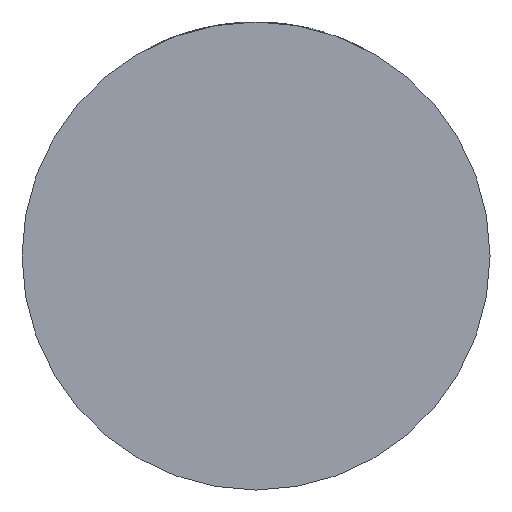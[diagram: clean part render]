
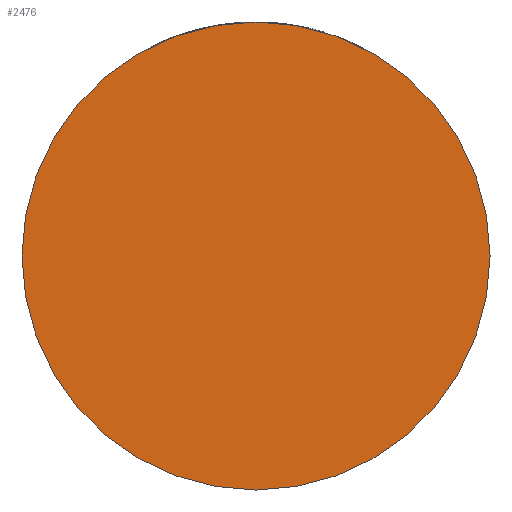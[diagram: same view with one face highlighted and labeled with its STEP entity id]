
A CAD part, front view. The second image highlights one B-rep face of the part: STEP entity #2476.
In plain terms, the highlighted planar face has unit normal (0, -1, 0).
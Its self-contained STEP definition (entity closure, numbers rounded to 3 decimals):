
#68 = EDGE_LOOP ( 'NONE', ( #676, #3837 ) ) ;
#435 = CARTESIAN_POINT ( 'NONE',  ( -74., -60., 0. ) ) ;
#518 = DIRECTION ( 'NONE',  ( 0., -1., 0. ) ) ;
#676 = ORIENTED_EDGE ( 'NONE', *, *, #859, .T. ) ;
#764 = CARTESIAN_POINT ( 'NONE',  ( 0., -60., 0. ) ) ;
#789 = CARTESIAN_POINT ( 'NONE',  ( 0., -60., 0. ) ) ;
#859 = EDGE_CURVE ( 'NONE', #3728, #1614, #1690, .T. ) ;
#1151 = AXIS2_PLACEMENT_3D ( 'NONE', #789, #2245, #3711 ) ;
#1413 = CIRCLE ( 'NONE', #4668, 74. ) ;
#1614 = VERTEX_POINT ( 'NONE', #3796 ) ;
#1690 = CIRCLE ( 'NONE', #1151, 74. ) ;
#2218 = DIRECTION ( 'NONE',  ( 0., -1., 0. ) ) ;
#2245 = DIRECTION ( 'NONE',  ( 0., -1., 0. ) ) ;
#2476 = ADVANCED_FACE ( 'NONE', ( #2926 ), #4009, .T. ) ;
#2770 = CARTESIAN_POINT ( 'NONE',  ( 0., -60., 0. ) ) ;
#2926 = FACE_OUTER_BOUND ( 'NONE', #68, .T. ) ;
#3711 = DIRECTION ( 'NONE',  ( 1., 0., 0. ) ) ;
#3728 = VERTEX_POINT ( 'NONE', #435 ) ;
#3796 = CARTESIAN_POINT ( 'NONE',  ( 74., -60., 0. ) ) ;
#3809 = DIRECTION ( 'NONE',  ( 1., 0., 0. ) ) ;
#3837 = ORIENTED_EDGE ( 'NONE', *, *, #3872, .T. ) ;
#3872 = EDGE_CURVE ( 'NONE', #1614, #3728, #1413, .T. ) ;
#4009 = PLANE ( 'NONE',  #4161 ) ;
#4161 = AXIS2_PLACEMENT_3D ( 'NONE', #764, #2218, #4467 ) ;
#4467 = DIRECTION ( 'NONE',  ( 1., 0., 0. ) ) ;
#4668 = AXIS2_PLACEMENT_3D ( 'NONE', #2770, #518, #3809 ) ;
